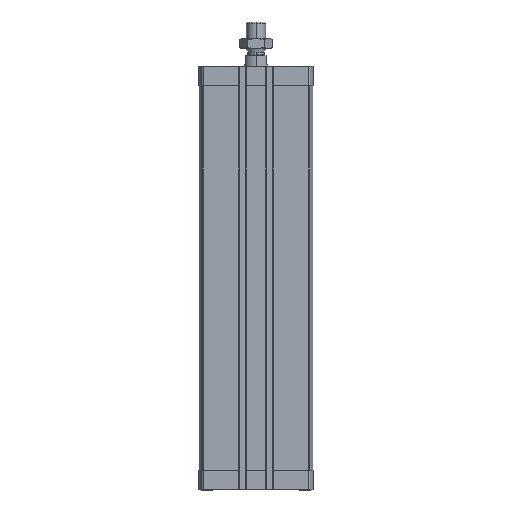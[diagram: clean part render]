
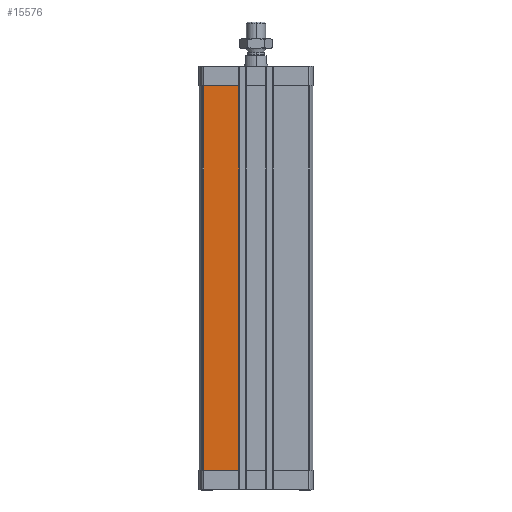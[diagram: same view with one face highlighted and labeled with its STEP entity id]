
A CAD part, left-side view. The second image highlights one B-rep face of the part: STEP entity #15576.
In plain terms, the highlighted planar face has unit normal (-1, 0, 0).
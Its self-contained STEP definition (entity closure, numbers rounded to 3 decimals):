
#592 = DIRECTION ( 'NONE',  ( 0., 1., 0. ) ) ;
#746 = FACE_OUTER_BOUND ( 'NONE', #3405, .T. ) ;
#1449 = EDGE_CURVE ( 'NONE', #3756, #6725, #15040, .T. ) ;
#1518 = AXIS2_PLACEMENT_3D ( 'NONE', #14514, #10863, #3425 ) ;
#1552 = LINE ( 'NONE', #13041, #13968 ) ;
#2165 = PLANE ( 'NONE',  #1518 ) ;
#3405 = EDGE_LOOP ( 'NONE', ( #8491, #14242, #7682, #8228 ) ) ;
#3425 = DIRECTION ( 'NONE',  ( 0., 0., 1. ) ) ;
#3689 = DIRECTION ( 'NONE',  ( 0., 0., -1. ) ) ;
#3756 = VERTEX_POINT ( 'NONE', #6893 ) ;
#4832 = EDGE_CURVE ( 'NONE', #12135, #3756, #8530, .T. ) ;
#4926 = DIRECTION ( 'NONE',  ( 0., 0., 1. ) ) ;
#4933 = CARTESIAN_POINT ( 'NONE',  ( -47.5, 43.743, -337.5 ) ) ;
#5616 = VECTOR ( 'NONE', #13594, 1000. ) ;
#6725 = VERTEX_POINT ( 'NONE', #8266 ) ;
#6893 = CARTESIAN_POINT ( 'NONE',  ( -47.5, 14.3, -337.5 ) ) ;
#6922 = EDGE_CURVE ( 'NONE', #6725, #13328, #1552, .T. ) ;
#7682 = ORIENTED_EDGE ( 'NONE', *, *, #6922, .T. ) ;
#8228 = ORIENTED_EDGE ( 'NONE', *, *, #11560, .T. ) ;
#8266 = CARTESIAN_POINT ( 'NONE',  ( -47.5, 14.3, -16.5 ) ) ;
#8491 = ORIENTED_EDGE ( 'NONE', *, *, #4832, .T. ) ;
#8530 = LINE ( 'NONE', #4933, #5616 ) ;
#9523 = VECTOR ( 'NONE', #3689, 1000. ) ;
#9891 = CARTESIAN_POINT ( 'NONE',  ( -47.5, 14.3, -337.5 ) ) ;
#10863 = DIRECTION ( 'NONE',  ( -1., 0., 0. ) ) ;
#11128 = CARTESIAN_POINT ( 'NONE',  ( -47.5, 43.743, -337.5 ) ) ;
#11382 = VECTOR ( 'NONE', #4926, 1000. ) ;
#11560 = EDGE_CURVE ( 'NONE', #13328, #12135, #13969, .T. ) ;
#12135 = VERTEX_POINT ( 'NONE', #13692 ) ;
#12792 = CARTESIAN_POINT ( 'NONE',  ( -47.5, 43.743, -16.5 ) ) ;
#13041 = CARTESIAN_POINT ( 'NONE',  ( -47.5, 0., -16.5 ) ) ;
#13328 = VERTEX_POINT ( 'NONE', #12792 ) ;
#13594 = DIRECTION ( 'NONE',  ( 0., -1., 0. ) ) ;
#13692 = CARTESIAN_POINT ( 'NONE',  ( -47.5, 43.743, -337.5 ) ) ;
#13968 = VECTOR ( 'NONE', #592, 1000. ) ;
#13969 = LINE ( 'NONE', #11128, #9523 ) ;
#14242 = ORIENTED_EDGE ( 'NONE', *, *, #1449, .T. ) ;
#14514 = CARTESIAN_POINT ( 'NONE',  ( -47.5, 43.743, -337.5 ) ) ;
#15040 = LINE ( 'NONE', #9891, #11382 ) ;
#15576 = ADVANCED_FACE ( 'NONE', ( #746 ), #2165, .T. ) ;
